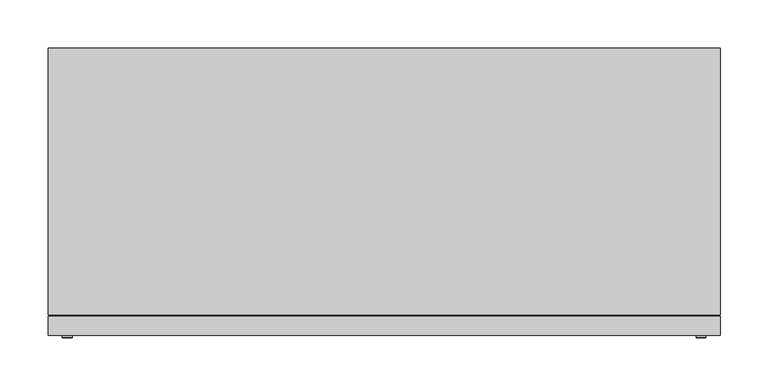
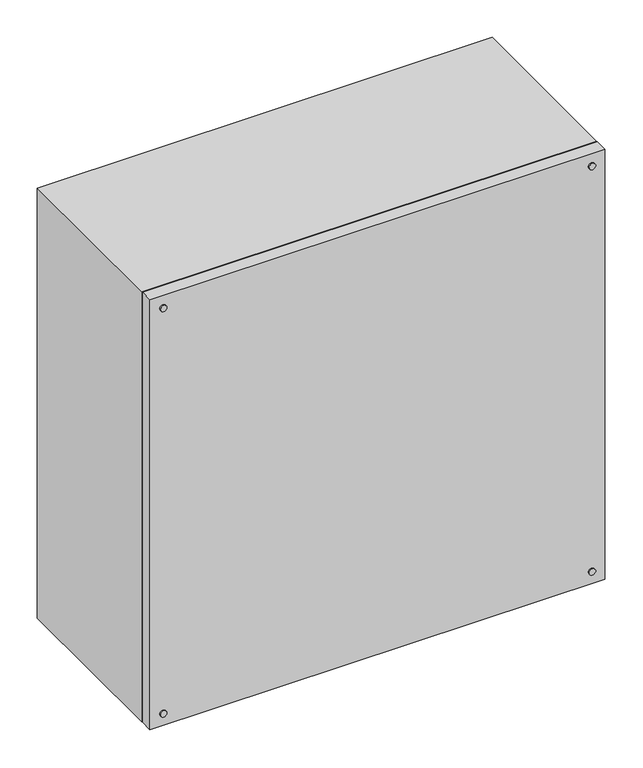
"""IFC4 building model written with IfcOpenShell, lengths in millimetres: proxy geometry, 20206_プルボックス_大_強電用 : 幹線設備."""

from ifc_helpers import new_model, si_unit, point, frame, frame_2d, origin, place, context, project, spatial, circle_curve, trimmed, segment, composite_curve, outline, extrude, faceted_brep, source, transform, mapped, element, save


def electrical_fixtures_9befc5e6(model_context):
    return source(origin(), model_context, "Body", "SolidModel", [
        extrude(outline(composite_curve([segment(trimmed(circle_curve(frame_2d((680.0, -330.0)), 5.0), [point((680.0, -325.0))], [point((680.0, -335.0))], False, "CARTESIAN"), True, "CONTINUOUS"), segment(trimmed(circle_curve(frame_2d((680.0, -330.0)), 5.0), [point((680.0, -335.0))], [point((680.0, -325.0))], False, "CARTESIAN"), True, "CONTINUOUS")], self_intersect=False)), frame((0.0, -152.0, 0.0), z_axis=(0.0, 1.0, 0.0), x_axis=(0.0, 0.0, 1.0)), (0.0, 0.0, 1.0), 2.0),
        extrude(outline(composite_curve([segment(trimmed(circle_curve(frame_2d((680.0, 330.0)), 5.0), [point((680.0, 335.0))], [point((680.0, 325.0))], False, "CARTESIAN"), True, "CONTINUOUS"), segment(trimmed(circle_curve(frame_2d((680.0, 330.0)), 5.0), [point((680.0, 325.0))], [point((680.0, 335.0))], False, "CARTESIAN"), True, "CONTINUOUS")], self_intersect=False)), frame((0.0, -152.0, 0.0), z_axis=(0.0, 1.0, 0.0), x_axis=(0.0, 0.0, 1.0)), (0.0, 0.0, 1.0), 2.0),
        extrude(outline(composite_curve([segment(trimmed(circle_curve(frame_2d((20.0, -330.0)), 5.0), [point((20.0, -325.0))], [point((20.0, -335.0))], False, "CARTESIAN"), True, "CONTINUOUS"), segment(trimmed(circle_curve(frame_2d((20.0, -330.0)), 5.0), [point((20.0, -335.0))], [point((20.0, -325.0))], False, "CARTESIAN"), True, "CONTINUOUS")], self_intersect=False)), frame((0.0, -152.0, 0.0), z_axis=(0.0, 1.0, 0.0), x_axis=(0.0, 0.0, 1.0)), (0.0, 0.0, 1.0), 2.0),
        extrude(outline(composite_curve([segment(trimmed(circle_curve(frame_2d((20.0, 330.0)), 5.0), [point((20.0, 335.0))], [point((20.0, 325.0))], False, "CARTESIAN"), True, "CONTINUOUS"), segment(trimmed(circle_curve(frame_2d((20.0, 330.0)), 5.0), [point((20.0, 325.0))], [point((20.0, 335.0))], False, "CARTESIAN"), True, "CONTINUOUS")], self_intersect=False)), frame((0.0, -152.0, 0.0), z_axis=(0.0, 1.0, 0.0), x_axis=(0.0, 0.0, 1.0)), (0.0, 0.0, 1.0), 2.0),
        faceted_brep([(350.0, 150.0, 700.0), (-350.0, 150.0, 700.0), (-350.0, -128.1279995, 700.0), (350.0, -128.1279995, 700.0), (-350.0, -150.0, 700.0), (350.0, -150.0, 700.0), (350.0, -130.1279995, 700.0), (-350.0, -130.1279995, 700.0), (350.0, -150.0, 0.0), (-350.0, -150.0, 0.0), (-350.0, -130.1279995, 0.0), (350.0, -130.1279995, 0.0), (-350.0, 150.0, 0.0), (350.0, 150.0, 0.0), (350.0, -128.1279995, 0.0), (-350.0, -128.1279995, 0.0), (348.0, -130.1279995, 698.0), (348.0, -130.1279995, 2.0), (348.0, -128.1279995, 2.0), (348.0, -128.1279995, 698.0), (-348.0, -130.1279995, 2.0), (-348.0, -128.1279995, 2.0), (-348.0, -130.1279995, 698.0), (-348.0, -128.1279995, 698.0)], [[[0, 1, 2, 3]], [[4, 5, 6, 7]], [[8, 9, 10, 11]], [[12, 13, 14, 15]], [[1, 0, 13, 12]], [[1, 12, 15, 2]], [[9, 4, 7, 10]], [[5, 4, 9, 8]], [[13, 0, 3, 14]], [[5, 8, 11, 6]], [[16, 17, 18, 19]], [[18, 17, 20, 21]], [[21, 20, 22, 23]], [[3, 2, 15, 14], [19, 18, 21, 23]], [[16, 19, 23, 22]], [[7, 6, 11, 10], [17, 16, 22, 20]]]),
    ])


if __name__ == "__main__":
    model = new_model("IFC4")
    model_context = context("Model", 3, world=origin())
    ifc_project = project(units=[si_unit("LENGTHUNIT", "METRE", prefix="MILLI")], contexts=[model_context])
    site = spatial("IfcSite", under=ifc_project)
    building = spatial("IfcBuilding", under=site)
    placement = place(None, origin())
    electrical_fixtures_shape = electrical_fixtures_9befc5e6(model_context)
    element("IfcBuildingElementProxy", 1, Name="20206_プルボックス_大_強電用 : 幹線設備", ObjectType="20206_プルボックス_大_強電用 : 幹線設備", at=placement, inside=building, context=model_context, shape_type="MappedRepresentation", body=[
        mapped(electrical_fixtures_shape, transform((0.0, 0.0, 0.0), x_axis=(1.0, 0.0, 0.0), y_axis=(0.0, 1.0, 0.0), z_axis=(0.0, 0.0, 1.0))),
    ])
    save(model, "model.ifc")
